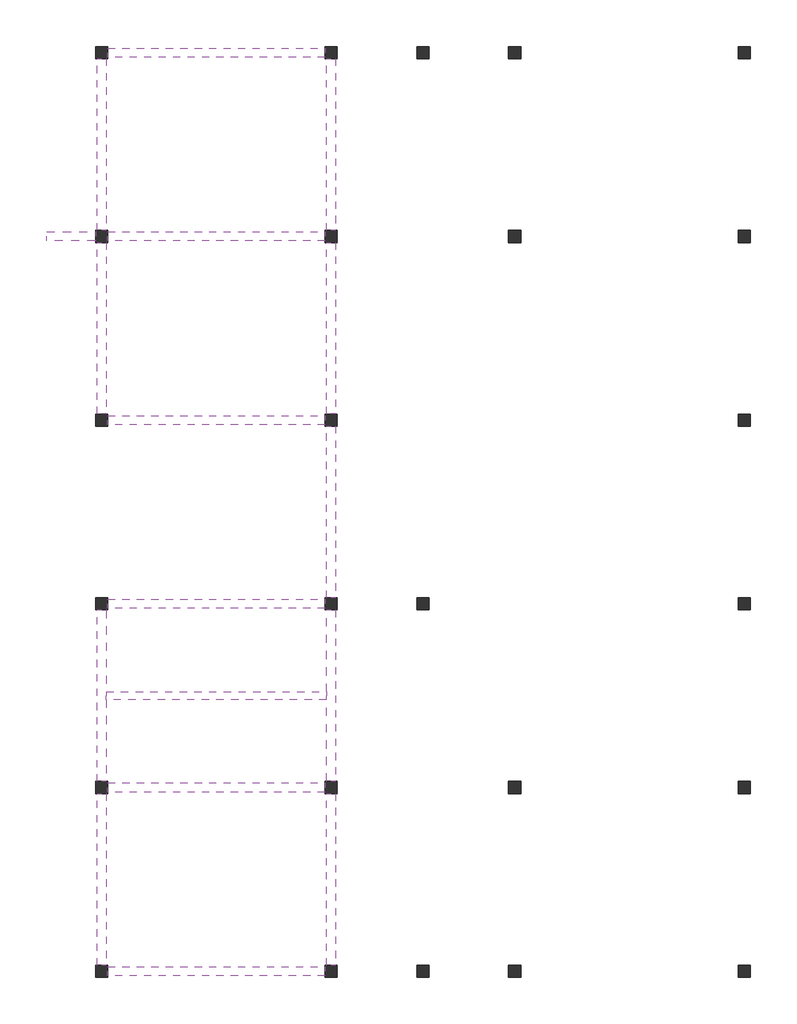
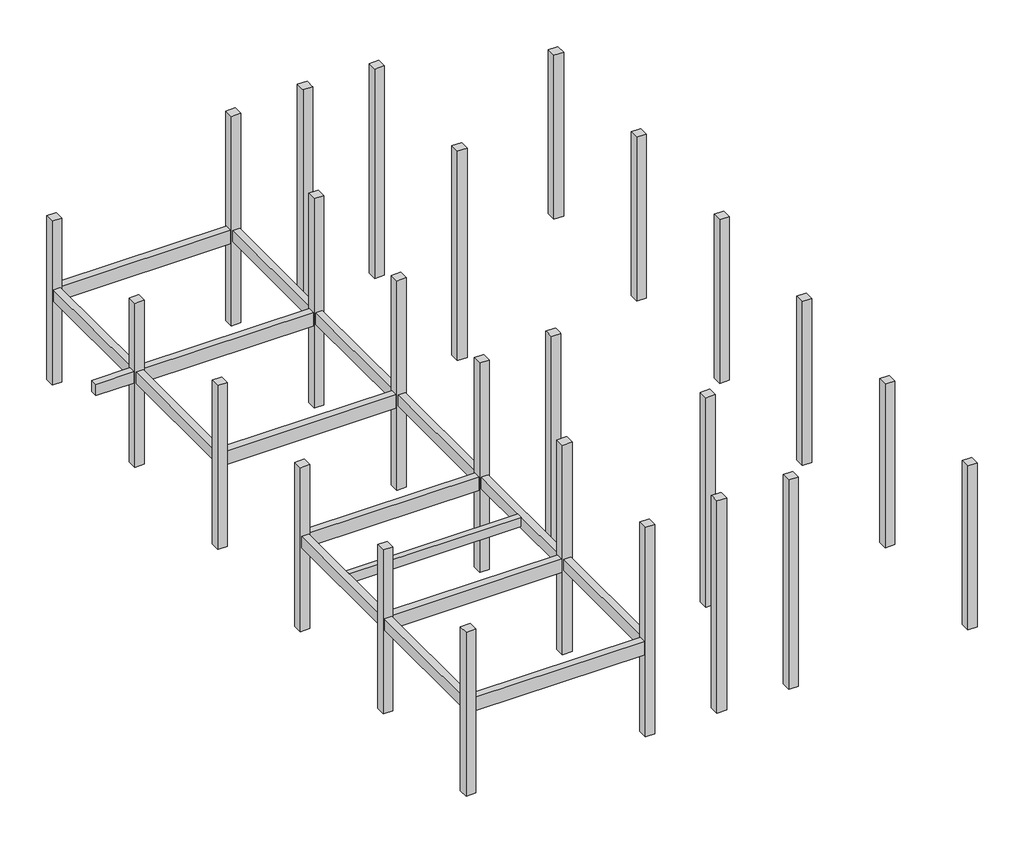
# One storey: 25 columns, 17 beams.
"""IFC4 building model written with IfcOpenShell, lengths in millimetres."""

from ifc_helpers import new_model, si_unit, frame, origin, origin_with_axes, place, context, project, spatial, polyline, outline, extrude, faceted_brep, element, save

model = new_model("IFC4")

# Units and contexts
model_context = context("Model", 3, world=origin())
ifc_project = project(units=[si_unit("LENGTHUNIT", "METRE", prefix="MILLI")], contexts=[model_context])

# Site, building, storey
site = spatial("IfcSite", under=ifc_project)
building = spatial("IfcBuilding", under=site)
storey = spatial("IfcBuildingStorey", under=building, Name="Nền ±0.000", Elevation=0.0)

# Beams
placement = place(None, origin())
element("IfcBeam", 1, ObjectType="@BS-Concrete Beam : D250x400", at=placement, inside=storey, context=model_context, shape_type="SweptSolid", body=[
    extrude(outline(polyline([(150.0, 8875.0), (150.0, 9125.0), (7350.0, 9125.0), (7350.0, 8875.0), (150.0, 8875.0)])), frame((0.0, 0.0, 3800.0), z_axis=(0.0, 0.0, 1.0), x_axis=(1.0, 0.0, 0.0)), (0.0, 0.0, 1.0), 400.0),
])
element("IfcBeam", 2, ObjectType="@BS-Concrete Beam : D300x500", at=placement, inside=storey, context=model_context, shape_type="SweptSolid", body=[
    extrude(outline(polyline([(-1800.0, 23850.0), (-1800.0, 24150.0), (-200.0, 24150.0), (-200.0, 23850.0), (-1800.0, 23850.0)])), frame((0.0, 0.0, 3700.0), z_axis=(0.0, 0.0, 1.0), x_axis=(1.0, 0.0, 0.0)), (0.0, 0.0, 1.0), 500.0),
])
element("IfcBeam", 3, ObjectType="@BS-Concrete Beam : D300x500", at=placement, inside=storey, context=model_context, shape_type="SweptSolid", body=[
    extrude(outline(polyline([(150.0, 200.0), (-150.0, 200.0), (-150.0, 5800.0), (150.0, 5800.0), (150.0, 200.0)])), frame((0.0, 0.0, 3700.0), z_axis=(0.0, 0.0, 1.0), x_axis=(1.0, 0.0, 0.0)), (0.0, 0.0, 1.0), 500.0),
])
element("IfcBeam", 4, ObjectType="@BS-Concrete Beam : D300x500", at=placement, inside=storey, context=model_context, shape_type="SweptSolid", body=[
    extrude(outline(polyline([(7650.0, 200.0), (7350.0, 200.0), (7350.0, 5800.0), (7650.0, 5800.0), (7650.0, 200.0)])), frame((0.0, 0.0, 3700.0), z_axis=(0.0, 0.0, 1.0), x_axis=(1.0, 0.0, 0.0)), (0.0, 0.0, 1.0), 500.0),
])
element("IfcBeam", 5, ObjectType="@BS-Concrete Beam : D300x500", at=placement, inside=storey, context=model_context, shape_type="Brep", body=[
    faceted_brep([(-150.0, 6200.0, 4200.0), (150.0, 6200.0, 4200.0), (150.0, 8875.0, 4200.0), (150.0, 9125.0, 4200.0), (150.0, 11800.0, 4200.0), (-150.0, 11800.0, 4200.0), (150.0, 6200.0, 3700.0), (150.0, 11800.0, 3700.0), (-150.0, 6200.0, 3700.0), (-150.0, 11800.0, 3700.0)], [[[0, 1, 2, 3, 4, 5]], [[1, 6, 7, 4, 3, 2]], [[6, 8, 9, 7]], [[8, 0, 5, 9]], [[1, 0, 8, 6]], [[5, 4, 7, 9]]]),
])
element("IfcBeam", 6, ObjectType="@BS-Concrete Beam : D300x500", at=placement, inside=storey, context=model_context, shape_type="Brep", body=[
    faceted_brep([(7350.0, 6200.0, 4200.0), (7650.0, 6200.0, 4200.0), (7650.0, 11800.0, 4200.0), (7350.0, 11800.0, 4200.0), (7350.0, 9125.0, 4200.0), (7350.0, 8875.0, 4200.0), (7650.0, 6200.0, 3700.0), (7650.0, 11800.0, 3700.0), (7350.0, 6200.0, 3700.0), (7350.0, 11800.0, 3700.0)], [[[0, 1, 2, 3, 4, 5]], [[1, 6, 7, 2]], [[6, 8, 9, 7]], [[8, 0, 5, 4, 3, 9]], [[1, 0, 8, 6]], [[3, 2, 7, 9]]]),
])
element("IfcBeam", 7, ObjectType="@BS-Concrete Beam : D300x500", at=placement, inside=storey, context=model_context, shape_type="SweptSolid", body=[
    extrude(outline(polyline([(7650.0, 12200.0), (7350.0, 12200.0), (7350.0, 17800.0), (7650.0, 17800.0), (7650.0, 12200.0)])), frame((0.0, 0.0, 3700.0), z_axis=(0.0, 0.0, 1.0), x_axis=(1.0, 0.0, 0.0)), (0.0, 0.0, 1.0), 500.0),
])
element("IfcBeam", 8, ObjectType="@BS-Concrete Beam : D300x500", at=placement, inside=storey, context=model_context, shape_type="SweptSolid", body=[
    extrude(outline(polyline([(150.0, 18200.0), (-150.0, 18200.0), (-150.0, 23800.0), (150.0, 23800.0), (150.0, 18200.0)])), frame((0.0, 0.0, 3700.0), z_axis=(0.0, 0.0, 1.0), x_axis=(1.0, 0.0, 0.0)), (0.0, 0.0, 1.0), 500.0),
])
element("IfcBeam", 9, ObjectType="@BS-Concrete Beam : D300x500", at=placement, inside=storey, context=model_context, shape_type="SweptSolid", body=[
    extrude(outline(polyline([(7650.0, 18200.0), (7350.0, 18200.0), (7350.0, 23800.0), (7650.0, 23800.0), (7650.0, 18200.0)])), frame((0.0, 0.0, 3700.0), z_axis=(0.0, 0.0, 1.0), x_axis=(1.0, 0.0, 0.0)), (0.0, 0.0, 1.0), 500.0),
])
element("IfcBeam", 10, ObjectType="@BS-Concrete Beam : D300x500", at=placement, inside=storey, context=model_context, shape_type="SweptSolid", body=[
    extrude(outline(polyline([(150.0, 24200.0), (-150.0, 24200.0), (-150.0, 29800.0), (150.0, 29800.0), (150.0, 24200.0)])), frame((0.0, 0.0, 3700.0), z_axis=(0.0, 0.0, 1.0), x_axis=(1.0, 0.0, 0.0)), (0.0, 0.0, 1.0), 500.0),
])
element("IfcBeam", 11, ObjectType="@BS-Concrete Beam : D300x500", at=placement, inside=storey, context=model_context, shape_type="SweptSolid", body=[
    extrude(outline(polyline([(7650.0, 24200.0), (7350.0, 24200.0), (7350.0, 29800.0), (7650.0, 29800.0), (7650.0, 24200.0)])), frame((0.0, 0.0, 3700.0), z_axis=(0.0, 0.0, 1.0), x_axis=(1.0, 0.0, 0.0)), (0.0, 0.0, 1.0), 500.0),
])
element("IfcBeam", 12, ObjectType="@BS-Concrete Beam : D300x600", at=placement, inside=storey, context=model_context, shape_type="SweptSolid", body=[
    extrude(outline(polyline([(200.0, -150.0), (200.0, 150.0), (7300.0, 150.0), (7300.0, -150.0), (200.0, -150.0)])), frame((0.0, 0.0, 3600.0), z_axis=(0.0, 0.0, 1.0), x_axis=(1.0, 0.0, 0.0)), (0.0, 0.0, 1.0), 600.0),
])
element("IfcBeam", 13, ObjectType="@BS-Concrete Beam : D300x600", at=placement, inside=storey, context=model_context, shape_type="SweptSolid", body=[
    extrude(outline(polyline([(200.0, 5850.0), (200.0, 6150.0), (7300.0, 6150.0), (7300.0, 5850.0), (200.0, 5850.0)])), frame((0.0, 0.0, 3600.0), z_axis=(0.0, 0.0, 1.0), x_axis=(1.0, 0.0, 0.0)), (0.0, 0.0, 1.0), 600.0),
])
element("IfcBeam", 14, ObjectType="@BS-Concrete Beam : D300x600", at=placement, inside=storey, context=model_context, shape_type="SweptSolid", body=[
    extrude(outline(polyline([(200.0, 11850.0), (200.0, 12150.0), (7300.0, 12150.0), (7300.0, 11850.0), (200.0, 11850.0)])), frame((0.0, 0.0, 3600.0), z_axis=(0.0, 0.0, 1.0), x_axis=(1.0, 0.0, 0.0)), (0.0, 0.0, 1.0), 600.0),
])
element("IfcBeam", 15, ObjectType="@BS-Concrete Beam : D300x600", at=placement, inside=storey, context=model_context, shape_type="SweptSolid", body=[
    extrude(outline(polyline([(200.0, 17850.0), (200.0, 18150.0), (7300.0, 18150.0), (7300.0, 17850.0), (200.0, 17850.0)])), frame((0.0, 0.0, 3600.0), z_axis=(0.0, 0.0, 1.0), x_axis=(1.0, 0.0, 0.0)), (0.0, 0.0, 1.0), 600.0),
])
element("IfcBeam", 16, ObjectType="@BS-Concrete Beam : D300x600", at=placement, inside=storey, context=model_context, shape_type="SweptSolid", body=[
    extrude(outline(polyline([(200.0, 23850.0), (200.0, 24150.0), (7300.0, 24150.0), (7300.0, 23850.0), (200.0, 23850.0)])), frame((0.0, 0.0, 3600.0), z_axis=(0.0, 0.0, 1.0), x_axis=(1.0, 0.0, 0.0)), (0.0, 0.0, 1.0), 600.0),
])
element("IfcBeam", 17, ObjectType="@BS-Concrete Beam : D300x600", at=placement, inside=storey, context=model_context, shape_type="SweptSolid", body=[
    extrude(outline(polyline([(200.0, 29850.0), (200.0, 30150.0), (7300.0, 30150.0), (7300.0, 29850.0), (200.0, 29850.0)])), frame((0.0, 0.0, 3600.0), z_axis=(0.0, 0.0, 1.0), x_axis=(1.0, 0.0, 0.0)), (0.0, 0.0, 1.0), 600.0),
])

# Columns
element("IfcColumn", 18, ObjectType="@BS-Concrete Column : C400x400", at=placement, inside=storey, context=model_context, shape_type="SweptSolid", body=[
    extrude(outline(polyline([(200.0, 200.0), (200.0, -200.0), (-200.0, -200.0), (-200.0, 200.0), (200.0, 200.0)])), origin_with_axes(), (0.0, 0.0, 1.0), 7253.5898385),
])
element("IfcColumn", 19, ObjectType="@BS-Concrete Column : C400x400", at=placement, inside=storey, context=model_context, shape_type="SweptSolid", body=[
    extrude(outline(polyline([(7700.0, 200.0), (7700.0, -200.0), (7300.0, -200.0), (7300.0, 200.0), (7700.0, 200.0)])), origin_with_axes(), (0.0, 0.0, 1.0), 9263.2087817),
])
element("IfcColumn", 20, ObjectType="@BS-Concrete Column : C400x400", at=placement, inside=storey, context=model_context, shape_type="SweptSolid", body=[
    extrude(outline(polyline([(13700.0, 200.0), (13700.0, -200.0), (13300.0, -200.0), (13300.0, 200.0), (13700.0, 200.0)])), origin_with_axes(), (0.0, 0.0, 1.0), 9263.2087817),
])
element("IfcColumn", 21, ObjectType="@BS-Concrete Column : C400x400", at=placement, inside=storey, context=model_context, shape_type="SweptSolid", body=[
    extrude(outline(polyline([(21200.0, 200.0), (21200.0, -200.0), (20800.0, -200.0), (20800.0, 200.0), (21200.0, 200.0)])), origin_with_axes(), (0.0, 0.0, 1.0), 7253.5898385),
])
element("IfcColumn", 22, ObjectType="@BS-Concrete Column : C400x400", at=placement, inside=storey, context=model_context, shape_type="Brep", body=[
    faceted_brep([(10700.0, 200.0, 0.0), (10700.0, -200.0, 0.0), (10300.0, -200.0, 0.0), (10300.0, 200.0, 0.0), (10700.0, 200.0, 9392.3008123), (10700.0, 150.0, 9392.3008123), (10700.0, -150.0, 9392.3008123), (10700.0, -200.0, 9392.3008123), (10300.0, -200.0, 9392.3008123), (10300.0, -150.0, 9392.3008123), (10300.0, 150.0, 9392.3008123), (10300.0, 200.0, 9392.3008123)], [[[0, 1, 2, 3]], [[4, 5, 6, 7, 1, 0]], [[7, 8, 2, 1]], [[8, 9, 10, 11, 3, 2]], [[11, 4, 0, 3]], [[4, 11, 10, 9, 8, 7, 6, 5]]]),
])
element("IfcColumn", 23, ObjectType="@BS-Concrete Column : C400x400", at=placement, inside=storey, context=model_context, shape_type="SweptSolid", body=[
    extrude(outline(polyline([(200.0, 6200.0), (200.0, 5800.0), (-200.0, 5800.0), (-200.0, 6200.0), (200.0, 6200.0)])), origin_with_axes(), (0.0, 0.0, 1.0), 7253.5898385),
])
element("IfcColumn", 24, ObjectType="@BS-Concrete Column : C400x400", at=placement, inside=storey, context=model_context, shape_type="SweptSolid", body=[
    extrude(outline(polyline([(7700.0, 6200.0), (7700.0, 5800.0), (7300.0, 5800.0), (7300.0, 6200.0), (7700.0, 6200.0)])), origin_with_axes(), (0.0, 0.0, 1.0), 9263.2087817),
])
element("IfcColumn", 25, ObjectType="@BS-Concrete Column : C400x400", at=placement, inside=storey, context=model_context, shape_type="SweptSolid", body=[
    extrude(outline(polyline([(13700.0, 6200.0), (13700.0, 5800.0), (13300.0, 5800.0), (13300.0, 6200.0), (13700.0, 6200.0)])), origin_with_axes(), (0.0, 0.0, 1.0), 9263.2087817),
])
element("IfcColumn", 26, ObjectType="@BS-Concrete Column : C400x400", at=placement, inside=storey, context=model_context, shape_type="SweptSolid", body=[
    extrude(outline(polyline([(21200.0, 6200.0), (21200.0, 5800.0), (20800.0, 5800.0), (20800.0, 6200.0), (21200.0, 6200.0)])), origin_with_axes(), (0.0, 0.0, 1.0), 7253.5898385),
])
element("IfcColumn", 27, ObjectType="@BS-Concrete Column : C400x400", at=placement, inside=storey, context=model_context, shape_type="SweptSolid", body=[
    extrude(outline(polyline([(200.0, 12200.0), (200.0, 11800.0), (-200.0, 11800.0), (-200.0, 12200.0), (200.0, 12200.0)])), origin_with_axes(), (0.0, 0.0, 1.0), 7253.5898385),
])
element("IfcColumn", 28, ObjectType="@BS-Concrete Column : C400x400", at=placement, inside=storey, context=model_context, shape_type="SweptSolid", body=[
    extrude(outline(polyline([(7700.0, 12200.0), (7700.0, 11800.0), (7300.0, 11800.0), (7300.0, 12200.0), (7700.0, 12200.0)])), origin_with_axes(), (0.0, 0.0, 1.0), 9263.2087817),
])
element("IfcColumn", 29, ObjectType="@BS-Concrete Column : C400x400", at=placement, inside=storey, context=model_context, shape_type="SweptSolid", body=[
    extrude(outline(polyline([(21200.0, 12200.0), (21200.0, 11800.0), (20800.0, 11800.0), (20800.0, 12200.0), (21200.0, 12200.0)])), origin_with_axes(), (0.0, 0.0, 1.0), 7253.5898385),
])
element("IfcColumn", 30, ObjectType="@BS-Concrete Column : C400x400", at=placement, inside=storey, context=model_context, shape_type="Brep", body=[
    faceted_brep([(10700.0, 12200.0, 0.0), (10700.0, 11800.0, 0.0), (10300.0, 11800.0, 0.0), (10300.0, 12200.0, 0.0), (10700.0, 12200.0, 9392.3008123), (10700.0, 12150.0, 9392.3008123), (10700.0, 11850.0, 9392.3008123), (10700.0, 11800.0, 9392.3008123), (10300.0, 11800.0, 9392.3008123), (10300.0, 11850.0, 9392.3008123), (10300.0, 12150.0, 9392.3008123), (10300.0, 12200.0, 9392.3008123)], [[[0, 1, 2, 3]], [[4, 5, 6, 7, 1, 0]], [[7, 8, 2, 1]], [[8, 9, 10, 11, 3, 2]], [[11, 4, 0, 3]], [[4, 11, 10, 9, 8, 7, 6, 5]]]),
])
element("IfcColumn", 31, ObjectType="@BS-Concrete Column : C400x400", at=placement, inside=storey, context=model_context, shape_type="SweptSolid", body=[
    extrude(outline(polyline([(200.0, 18200.0), (200.0, 17800.0), (-200.0, 17800.0), (-200.0, 18200.0), (200.0, 18200.0)])), origin_with_axes(), (0.0, 0.0, 1.0), 7253.5898385),
])
element("IfcColumn", 32, ObjectType="@BS-Concrete Column : C400x400", at=placement, inside=storey, context=model_context, shape_type="SweptSolid", body=[
    extrude(outline(polyline([(7700.0, 18200.0), (7700.0, 17800.0), (7300.0, 17800.0), (7300.0, 18200.0), (7700.0, 18200.0)])), origin_with_axes(), (0.0, 0.0, 1.0), 9263.2087817),
])
element("IfcColumn", 33, ObjectType="@BS-Concrete Column : C400x400", at=placement, inside=storey, context=model_context, shape_type="SweptSolid", body=[
    extrude(outline(polyline([(21200.0, 18200.0), (21200.0, 17800.0), (20800.0, 17800.0), (20800.0, 18200.0), (21200.0, 18200.0)])), origin_with_axes(), (0.0, 0.0, 1.0), 7253.5898385),
])
element("IfcColumn", 34, ObjectType="@BS-Concrete Column : C400x400", at=placement, inside=storey, context=model_context, shape_type="SweptSolid", body=[
    extrude(outline(polyline([(200.0, 24200.0), (200.0, 23800.0), (-200.0, 23800.0), (-200.0, 24200.0), (200.0, 24200.0)])), origin_with_axes(), (0.0, 0.0, 1.0), 7253.5898385),
])
element("IfcColumn", 35, ObjectType="@BS-Concrete Column : C400x400", at=placement, inside=storey, context=model_context, shape_type="SweptSolid", body=[
    extrude(outline(polyline([(7700.0, 24200.0), (7700.0, 23800.0), (7300.0, 23800.0), (7300.0, 24200.0), (7700.0, 24200.0)])), origin_with_axes(), (0.0, 0.0, 1.0), 9263.2087817),
])
element("IfcColumn", 36, ObjectType="@BS-Concrete Column : C400x400", at=placement, inside=storey, context=model_context, shape_type="SweptSolid", body=[
    extrude(outline(polyline([(13700.0, 24200.0), (13700.0, 23800.0), (13300.0, 23800.0), (13300.0, 24200.0), (13700.0, 24200.0)])), origin_with_axes(), (0.0, 0.0, 1.0), 9263.2087817),
])
element("IfcColumn", 37, ObjectType="@BS-Concrete Column : C400x400", at=placement, inside=storey, context=model_context, shape_type="SweptSolid", body=[
    extrude(outline(polyline([(21200.0, 24200.0), (21200.0, 23800.0), (20800.0, 23800.0), (20800.0, 24200.0), (21200.0, 24200.0)])), origin_with_axes(), (0.0, 0.0, 1.0), 7253.5898385),
])
element("IfcColumn", 38, ObjectType="@BS-Concrete Column : C400x400", at=placement, inside=storey, context=model_context, shape_type="SweptSolid", body=[
    extrude(outline(polyline([(200.0, 30200.0), (200.0, 29800.0), (-200.0, 29800.0), (-200.0, 30200.0), (200.0, 30200.0)])), origin_with_axes(), (0.0, 0.0, 1.0), 7253.5898385),
])
element("IfcColumn", 39, ObjectType="@BS-Concrete Column : C400x400", at=placement, inside=storey, context=model_context, shape_type="SweptSolid", body=[
    extrude(outline(polyline([(7700.0, 30200.0), (7700.0, 29800.0), (7300.0, 29800.0), (7300.0, 30200.0), (7700.0, 30200.0)])), origin_with_axes(), (0.0, 0.0, 1.0), 9263.2087817),
])
element("IfcColumn", 40, ObjectType="@BS-Concrete Column : C400x400", at=placement, inside=storey, context=model_context, shape_type="SweptSolid", body=[
    extrude(outline(polyline([(13700.0, 30200.0), (13700.0, 29800.0), (13300.0, 29800.0), (13300.0, 30200.0), (13700.0, 30200.0)])), origin_with_axes(), (0.0, 0.0, 1.0), 9263.2087817),
])
element("IfcColumn", 41, ObjectType="@BS-Concrete Column : C400x400", at=placement, inside=storey, context=model_context, shape_type="SweptSolid", body=[
    extrude(outline(polyline([(21200.0, 30200.0), (21200.0, 29800.0), (20800.0, 29800.0), (20800.0, 30200.0), (21200.0, 30200.0)])), origin_with_axes(), (0.0, 0.0, 1.0), 7253.5898385),
])
element("IfcColumn", 42, ObjectType="@BS-Concrete Column : C400x400", at=placement, inside=storey, context=model_context, shape_type="Brep", body=[
    faceted_brep([(10700.0, 30200.0, 0.0), (10700.0, 29800.0, 0.0), (10300.0, 29800.0, 0.0), (10300.0, 30200.0, 0.0), (10700.0, 30200.0, 9392.3008123), (10700.0, 30150.0, 9392.3008123), (10700.0, 29850.0, 9392.3008123), (10700.0, 29800.0, 9392.3008123), (10300.0, 29800.0, 9392.3008123), (10300.0, 29850.0, 9392.3008123), (10300.0, 30150.0, 9392.3008123), (10300.0, 30200.0, 9392.3008123)], [[[0, 1, 2, 3]], [[4, 5, 6, 7, 1, 0]], [[7, 8, 2, 1]], [[8, 9, 10, 11, 3, 2]], [[11, 4, 0, 3]], [[4, 11, 10, 9, 8, 7, 6, 5]]]),
])

save(model, "model.ifc")
